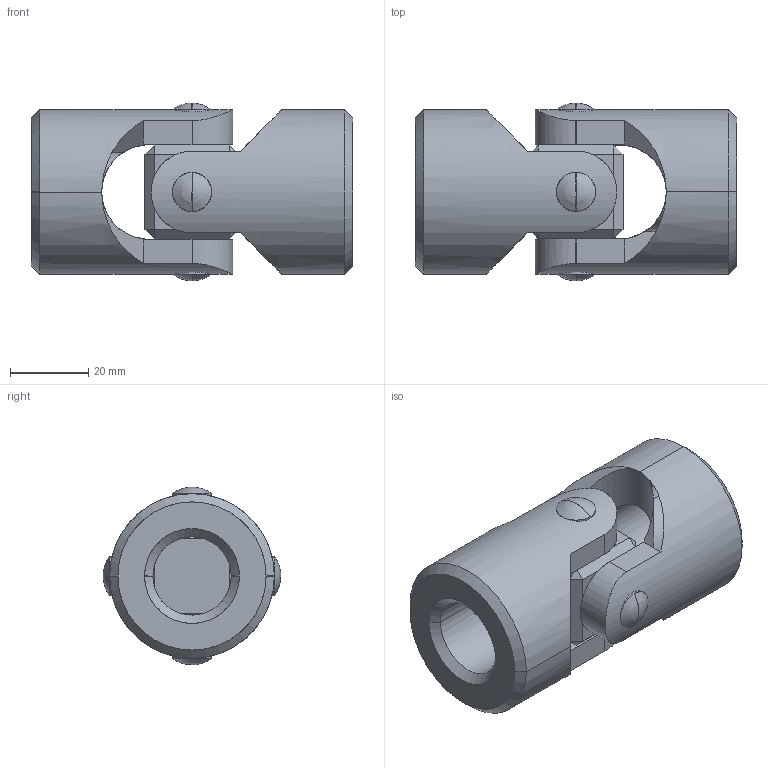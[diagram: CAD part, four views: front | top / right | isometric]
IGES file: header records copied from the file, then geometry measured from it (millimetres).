
Start section: SolidWorks IGES file using analytic representation for surfaces
Global section: file name: E:\WIXROYD\65186_v2\65186_v2_20180418_IGES\65186.W0020.igs; native system: SolidWorks 2017; preprocessor: SolidWorks 2017; author: liam_; date: 180618.201757; units: millimetre
Bounding box: 82 x 45.36 x 45.36 mm (x, y, z)
Surface area: 25107.2 mm2 (no closed solid volume)
Topology: 0 solids, 0 shells, 100 faces, 1932 edges, 1928 vertices
Faces by surface type: revolution 52, bspline 48
